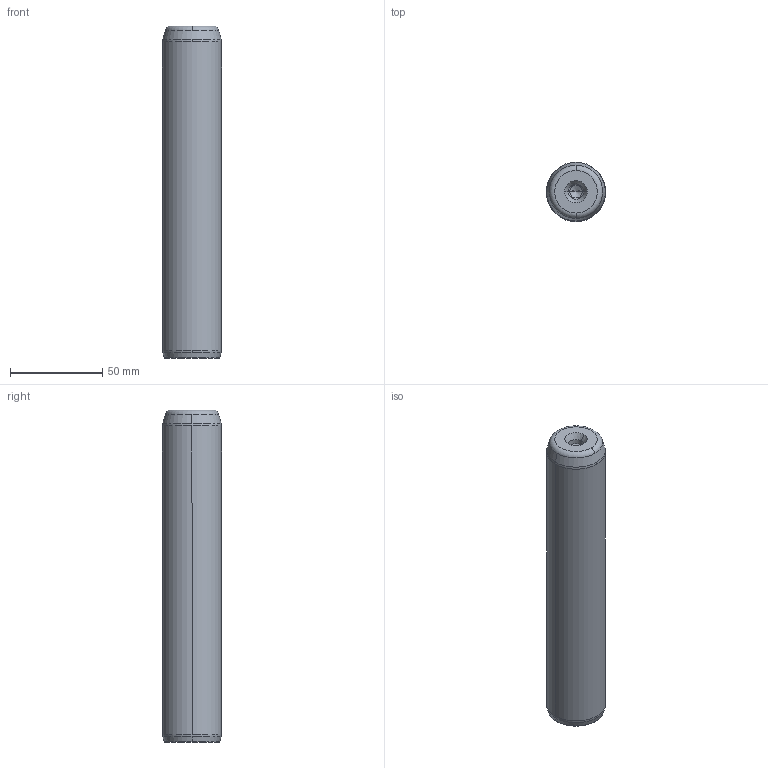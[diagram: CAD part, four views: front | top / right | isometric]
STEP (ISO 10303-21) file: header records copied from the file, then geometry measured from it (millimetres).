
FILE_DESCRIPTION((''),'2;1');
FILE_NAME('P10_032_180.stp','2008-12-23T15:04:01',(''),(''),'Mechanical Desktop 2009','Mechanical Desktop 2009',', , ');
FILE_SCHEMA(('CONFIG_CONTROL_DESIGN'));
Length unit declared in the file: millimetre
Products named in the file (5): Product; ProductAA; blmdl1; ProductA; blmdl1A
Assembly tree (2 placements, depth 3):
  Product
    ProductAA
      blmdl1
  ProductA
  blmdl1A
Bounding box: 32 x 32 x 180 mm (x, y, z)
Volume: 142539.9 mm3; surface area: 19851.5 mm2
Topology: 1 solids, 1 shells, 26 faces, 66 edges, 41 vertices
Faces by surface type: cone 10, torus 8, cylinder 6, plane 2
Entity records: 1012 total; most frequent: DIRECTION 170, CARTESIAN_POINT 134, ORIENTED_EDGE 128, AXIS2_PLACEMENT_3D 77, EDGE_CURVE 64, CIRCLE 48, VERTEX_POINT 41, EDGE_LOOP 27
